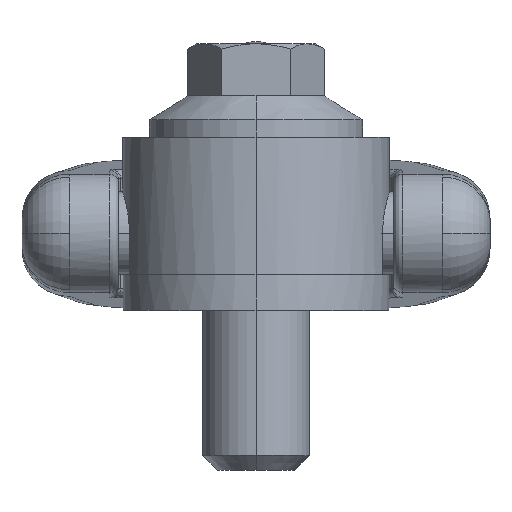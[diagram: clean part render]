
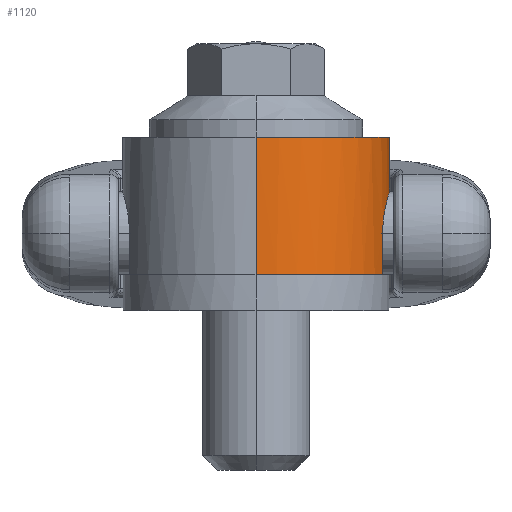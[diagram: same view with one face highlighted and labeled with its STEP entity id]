
A CAD part, top view. The second image highlights one B-rep face of the part: STEP entity #1120.
In plain terms, the highlighted cylindrical face has radius 22.5 mm (diameter 45 mm), a partial arc.
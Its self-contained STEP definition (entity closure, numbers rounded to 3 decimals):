
#1120 = ADVANCED_FACE ( 'NONE', ( #3554 ), #3552, .T. ) ;
#1121 = EDGE_LOOP ( 'NONE', ( #1122, #1126, #1129, #1132, #1187, #1190, #1193, #1196 ) ) ;
#1122 = ORIENTED_EDGE ( 'NONE', *, *, #1123, .F. ) ;
#1123 = EDGE_CURVE ( 'NONE', #1124, #1125, #3553, .T. ) ;
#1124 = VERTEX_POINT ( 'NONE', #3608 ) ;
#1125 = VERTEX_POINT ( 'NONE', #3607 ) ;
#1126 = ORIENTED_EDGE ( 'NONE', *, *, #1127, .T. ) ;
#1127 = EDGE_CURVE ( 'NONE', #1124, #1128, #3606, .T. ) ;
#1128 = VERTEX_POINT ( 'NONE', #3602 ) ;
#1129 = ORIENTED_EDGE ( 'NONE', *, *, #1130, .F. ) ;
#1130 = EDGE_CURVE ( 'NONE', #1131, #1128, #3601, .T. ) ;
#1131 = VERTEX_POINT ( 'NONE', #3596 ) ;
#1132 = ORIENTED_EDGE ( 'NONE', *, *, #1185, .T. ) ;
#1185 = EDGE_CURVE ( 'NONE', #1131, #1186, #3706, .T. ) ;
#1186 = VERTEX_POINT ( 'NONE', #3767 ) ;
#1187 = ORIENTED_EDGE ( 'NONE', *, *, #1188, .T. ) ;
#1188 = EDGE_CURVE ( 'NONE', #1186, #1189, #3765, .T. ) ;
#1189 = VERTEX_POINT ( 'NONE', #3766 ) ;
#1190 = ORIENTED_EDGE ( 'NONE', *, *, #1191, .T. ) ;
#1191 = EDGE_CURVE ( 'NONE', #1189, #1192, #3764, .T. ) ;
#1192 = VERTEX_POINT ( 'NONE', #3787 ) ;
#1193 = ORIENTED_EDGE ( 'NONE', *, *, #1194, .F. ) ;
#1194 = EDGE_CURVE ( 'NONE', #1195, #1192, #3786, .T. ) ;
#1195 = VERTEX_POINT ( 'NONE', #3781 ) ;
#1196 = ORIENTED_EDGE ( 'NONE', *, *, #1197, .F. ) ;
#1197 = EDGE_CURVE ( 'NONE', #1125, #1195, #3780, .T. ) ;
#3455 = DIRECTION ( 'NONE',  ( 0., 1., 0. ) ) ;
#3550 = CARTESIAN_POINT ( 'NONE',  ( 0., 45., 0. ) ) ;
#3551 = AXIS2_PLACEMENT_3D ( 'NONE', #3550, #3614, #3613 ) ;
#3552 = CYLINDRICAL_SURFACE ( 'NONE', #3551, 22.5 ) ;
#3553 = CIRCLE ( 'NONE', #3612, 22.5 ) ;
#3554 = FACE_OUTER_BOUND ( 'NONE', #1121, .T. ) ;
#3596 = CARTESIAN_POINT ( 'NONE',  ( 21.383, 6., 7. ) ) ;
#3597 = DIRECTION ( 'NONE',  ( 0., 0., -1. ) ) ;
#3598 = DIRECTION ( 'NONE',  ( 0., -1., 0. ) ) ;
#3599 = CARTESIAN_POINT ( 'NONE',  ( 0., 6., 0. ) ) ;
#3600 = AXIS2_PLACEMENT_3D ( 'NONE', #3599, #3598, #3597 ) ;
#3601 = CIRCLE ( 'NONE', #3600, 22.5 ) ;
#3602 = CARTESIAN_POINT ( 'NONE',  ( 0., 6., 22.5 ) ) ;
#3603 = DIRECTION ( 'NONE',  ( 0., -1., 0. ) ) ;
#3604 = VECTOR ( 'NONE', #3603, 1000. ) ;
#3605 = CARTESIAN_POINT ( 'NONE',  ( 0., 45., 22.5 ) ) ;
#3606 = LINE ( 'NONE', #3605, #3604 ) ;
#3607 = CARTESIAN_POINT ( 'NONE',  ( 0., 29.2, -22.5 ) ) ;
#3608 = CARTESIAN_POINT ( 'NONE',  ( 0., 29.2, 22.5 ) ) ;
#3609 = DIRECTION ( 'NONE',  ( 0., 0., 1. ) ) ;
#3610 = DIRECTION ( 'NONE',  ( 0., 1., 0. ) ) ;
#3611 = CARTESIAN_POINT ( 'NONE',  ( 0., 29.2, 0. ) ) ;
#3612 = AXIS2_PLACEMENT_3D ( 'NONE', #3611, #3610, #3609 ) ;
#3613 = DIRECTION ( 'NONE',  ( 0., 0., -1. ) ) ;
#3614 = DIRECTION ( 'NONE',  ( 0., -1., 0. ) ) ;
#3702 = VECTOR ( 'NONE', #3455, 1000. ) ;
#3704 = CARTESIAN_POINT ( 'NONE',  ( 21.383, 45., 7. ) ) ;
#3706 = LINE ( 'NONE', #3704, #3702 ) ;
#3727 = CARTESIAN_POINT ( 'NONE',  ( 21.876, 17.629, -5.271 ) ) ;
#3728 = CARTESIAN_POINT ( 'NONE',  ( 21.986, 18.113, -4.787 ) ) ;
#3729 = CARTESIAN_POINT ( 'NONE',  ( 22.022, 18.267, -4.616 ) ) ;
#3730 = CARTESIAN_POINT ( 'NONE',  ( 22.093, 18.557, -4.263 ) ) ;
#3731 = CARTESIAN_POINT ( 'NONE',  ( 22.128, 18.692, -4.08 ) ) ;
#3732 = CARTESIAN_POINT ( 'NONE',  ( 22.194, 18.945, -3.703 ) ) ;
#3733 = CARTESIAN_POINT ( 'NONE',  ( 22.226, 19.062, -3.508 ) ) ;
#3734 = CARTESIAN_POINT ( 'NONE',  ( 22.286, 19.278, -3.105 ) ) ;
#3735 = CARTESIAN_POINT ( 'NONE',  ( 22.314, 19.377, -2.896 ) ) ;
#3736 = CARTESIAN_POINT ( 'NONE',  ( 22.391, 19.642, -2.258 ) ) ;
#3737 = CARTESIAN_POINT ( 'NONE',  ( 22.431, 19.775, -1.82 ) ) ;
#3738 = CARTESIAN_POINT ( 'NONE',  ( 22.486, 19.954, -0.92 ) ) ;
#3739 = CARTESIAN_POINT ( 'NONE',  ( 22.5, 20., -0.453 ) ) ;
#3740 = CARTESIAN_POINT ( 'NONE',  ( 22.5, 20., 0.467 ) ) ;
#3741 = CARTESIAN_POINT ( 'NONE',  ( 22.486, 19.954, 0.923 ) ) ;
#3742 = CARTESIAN_POINT ( 'NONE',  ( 22.444, 19.818, 1.601 ) ) ;
#3743 = CARTESIAN_POINT ( 'NONE',  ( 22.427, 19.761, 1.827 ) ) ;
#3744 = CARTESIAN_POINT ( 'NONE',  ( 22.387, 19.627, 2.267 ) ) ;
#3745 = CARTESIAN_POINT ( 'NONE',  ( 22.364, 19.549, 2.482 ) ) ;
#3746 = CARTESIAN_POINT ( 'NONE',  ( 22.288, 19.286, 3.113 ) ) ;
#3747 = CARTESIAN_POINT ( 'NONE',  ( 22.227, 19.071, 3.515 ) ) ;
#3748 = CARTESIAN_POINT ( 'NONE',  ( 22.093, 18.559, 4.279 ) ) ;
#3749 = CARTESIAN_POINT ( 'NONE',  ( 22.021, 18.27, 4.63 ) ) ;
#3750 = CARTESIAN_POINT ( 'NONE',  ( 21.913, 17.789, 5.11 ) ) ;
#3751 = CARTESIAN_POINT ( 'NONE',  ( 21.876, 17.621, 5.263 ) ) ;
#3752 = CARTESIAN_POINT ( 'NONE',  ( 21.804, 17.268, 5.553 ) ) ;
#3753 = CARTESIAN_POINT ( 'NONE',  ( 21.769, 17.082, 5.691 ) ) ;
#3754 = CARTESIAN_POINT ( 'NONE',  ( 21.667, 16.514, 6.072 ) ) ;
#3755 = CARTESIAN_POINT ( 'NONE',  ( 21.605, 16.113, 6.287 ) ) ;
#3756 = CARTESIAN_POINT ( 'NONE',  ( 21.526, 15.478, 6.551 ) ) ;
#3757 = CARTESIAN_POINT ( 'NONE',  ( 21.501, 15.26, 6.629 ) ) ;
#3758 = CARTESIAN_POINT ( 'NONE',  ( 21.459, 14.819, 6.764 ) ) ;
#3759 = CARTESIAN_POINT ( 'NONE',  ( 21.442, 14.596, 6.819 ) ) ;
#3760 = CARTESIAN_POINT ( 'NONE',  ( 21.399, 13.923, 6.954 ) ) ;
#3761 = CARTESIAN_POINT ( 'NONE',  ( 21.383, 13.465, 7. ) ) ;
#3762 = CARTESIAN_POINT ( 'NONE',  ( 21.383, 13., 7. ) ) ;
#3764 = LINE ( 'NONE', #3790, #3789 ) ;
#3765 = B_SPLINE_CURVE_WITH_KNOTS ( 'NONE', 3,
 ( #3762, #3761, #3760, #3759, #3758, #3757, #3756, #3755, #3754, #3753, #3752, #3751, #3750, #3749, #3748, #3747, #3746, #3745, #3744, #3743, #3742, #3741, #3740, #3739, #3738, #3737, #3736, #3735, #3734, #3733, #3732, #3731, #3730, #3729, #3728, #3727, #3800, #3799, #3798, #3797, #3796, #3795, #3794, #3793, #3792, #3791 ),
 .UNSPECIFIED., .F., .F.,
 ( 4, 2, 2, 2, 2, 2, 2, 2, 2, 2, 2, 2, 2, 2, 2, 2, 2, 2, 2, 2, 2, 2, 4 ),
 ( 0., 0.001, 0.002, 0.003, 0.004, 0.005, 0.006, 0.007, 0.008, 0.009, 0.01, 0.011, 0.012, 0.014, 0.014, 0.015, 0.016, 0.017, 0.018, 0.019, 0.021, 0.021, 0.022 ),
 .UNSPECIFIED. ) ;
#3766 = CARTESIAN_POINT ( 'NONE',  ( 21.383, 13., -7. ) ) ;
#3767 = CARTESIAN_POINT ( 'NONE',  ( 21.383, 13., 7. ) ) ;
#3777 = DIRECTION ( 'NONE',  ( 0., -1., 0. ) ) ;
#3778 = VECTOR ( 'NONE', #3777, 1000. ) ;
#3779 = CARTESIAN_POINT ( 'NONE',  ( 0., 45., -22.5 ) ) ;
#3780 = LINE ( 'NONE', #3779, #3778 ) ;
#3781 = CARTESIAN_POINT ( 'NONE',  ( 0., 6., -22.5 ) ) ;
#3782 = DIRECTION ( 'NONE',  ( 0., 0., -1. ) ) ;
#3783 = DIRECTION ( 'NONE',  ( 0., -1., 0. ) ) ;
#3784 = CARTESIAN_POINT ( 'NONE',  ( 0., 6., 0. ) ) ;
#3785 = AXIS2_PLACEMENT_3D ( 'NONE', #3784, #3783, #3782 ) ;
#3786 = CIRCLE ( 'NONE', #3785, 22.5 ) ;
#3787 = CARTESIAN_POINT ( 'NONE',  ( 21.383, 6., -7. ) ) ;
#3788 = DIRECTION ( 'NONE',  ( 0., -1., 0. ) ) ;
#3789 = VECTOR ( 'NONE', #3788, 1000. ) ;
#3790 = CARTESIAN_POINT ( 'NONE',  ( 21.383, 45., -7. ) ) ;
#3791 = CARTESIAN_POINT ( 'NONE',  ( 21.383, 13., -7. ) ) ;
#3792 = CARTESIAN_POINT ( 'NONE',  ( 21.383, 13.233, -7. ) ) ;
#3793 = CARTESIAN_POINT ( 'NONE',  ( 21.387, 13.465, -6.988 ) ) ;
#3794 = CARTESIAN_POINT ( 'NONE',  ( 21.402, 13.926, -6.942 ) ) ;
#3795 = CARTESIAN_POINT ( 'NONE',  ( 21.413, 14.157, -6.908 ) ) ;
#3796 = CARTESIAN_POINT ( 'NONE',  ( 21.457, 14.835, -6.771 ) ) ;
#3797 = CARTESIAN_POINT ( 'NONE',  ( 21.5, 15.271, -6.637 ) ) ;
#3798 = CARTESIAN_POINT ( 'NONE',  ( 21.605, 16.114, -6.286 ) ) ;
#3799 = CARTESIAN_POINT ( 'NONE',  ( 21.669, 16.523, -6.066 ) ) ;
#3800 = CARTESIAN_POINT ( 'NONE',  ( 21.804, 17.279, -5.559 ) ) ;
